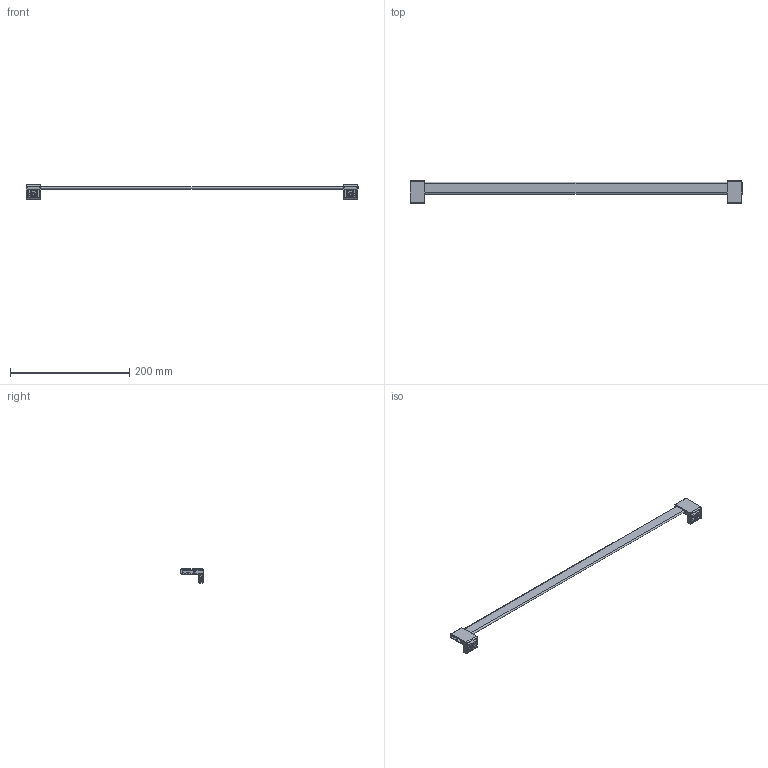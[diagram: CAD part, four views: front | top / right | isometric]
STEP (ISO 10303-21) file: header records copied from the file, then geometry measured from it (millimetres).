
FILE_DESCRIPTION((''),'2;1');
FILE_NAME('238723_SW0001','2023-01-19T07:24:26',('1ke04'),('Kesseboehmer'),'CREO PARAMETRIC BY PTC INC, 2020414','CREO PARAMETRIC BY PTC INC, 2020414','');
FILE_SCHEMA(('AUTOMOTIVE_DESIGN { 1 0 10303 214 1 1 1 1 }'));
Length unit declared in the file: millimetre
Products named in the file (1): 238723_SW0001
Bounding box: 556.5 x 38 x 23.6 mm (x, y, z)
Volume: 54451.4 mm3; surface area: 36958.6 mm2
Topology: 1 solids, 1 shells, 540 faces, 1382 edges, 840 vertices
Faces by surface type: plane 420, cylinder 72, cone 48
Entity records: 16492 total; most frequent: CARTESIAN_POINT 2871, ORIENTED_EDGE 2764, DIRECTION 2678, EDGE_CURVE 1382, VECTOR 1155, LINE 1155, VERTEX_POINT 840, AXIS2_PLACEMENT_3D 760
